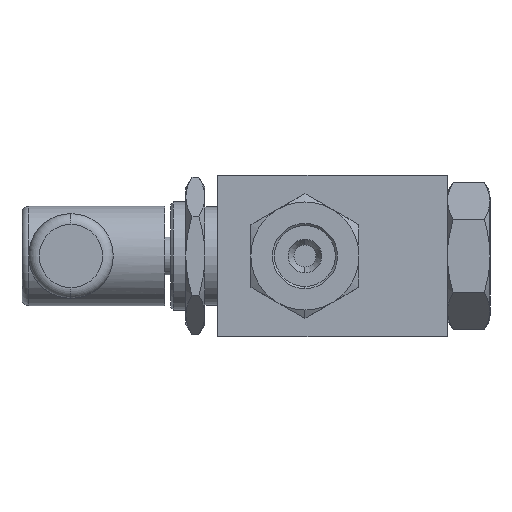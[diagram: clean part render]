
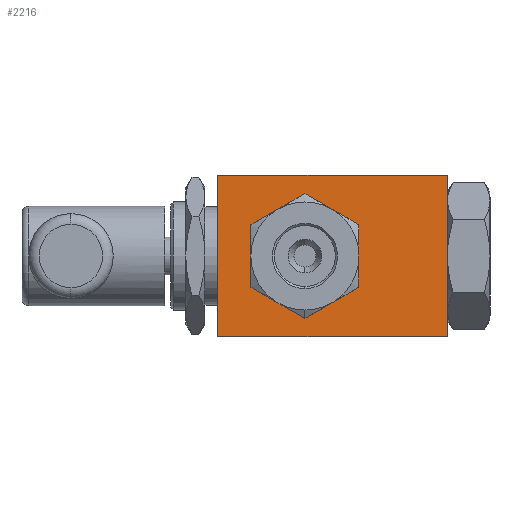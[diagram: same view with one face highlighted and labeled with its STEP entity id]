
A CAD part, left-side view. The second image highlights one B-rep face of the part: STEP entity #2216.
In plain terms, the highlighted planar face has unit normal (-1, 0, 0).
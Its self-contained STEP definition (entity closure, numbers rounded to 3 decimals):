
#25 = CARTESIAN_POINT ( 'NONE',  ( -33.25, 6.5, 0. ) ) ;
#98 = LINE ( 'NONE', #4542, #5382 ) ;
#142 = CIRCLE ( 'NONE', #3787, 11. ) ;
#367 = CIRCLE ( 'NONE', #4141, 11. ) ;
#534 = LINE ( 'NONE', #6021, #5282 ) ;
#566 = DIRECTION ( 'NONE',  ( 0., -1., 0. ) ) ;
#573 = CIRCLE ( 'NONE', #6204, 11. ) ;
#635 = DIRECTION ( 'NONE',  ( 0., 0., -1. ) ) ;
#638 = ORIENTED_EDGE ( 'NONE', *, *, #4500, .F. ) ;
#789 = DIRECTION ( 'NONE',  ( 1., 0., 0. ) ) ;
#880 = DIRECTION ( 'NONE',  ( 0., 0., -1. ) ) ;
#1128 = CARTESIAN_POINT ( 'NONE',  ( -33.25, 27., -19. ) ) ;
#1186 = CARTESIAN_POINT ( 'NONE',  ( -33.25, -27., 19. ) ) ;
#1243 = CARTESIAN_POINT ( 'NONE',  ( -33.25, 27., 19. ) ) ;
#1317 = DIRECTION ( 'NONE',  ( 1., 0., 0. ) ) ;
#1366 = FACE_BOUND ( 'NONE', #6045, .T. ) ;
#1371 = CARTESIAN_POINT ( 'NONE',  ( -33.25, 6.5, 0. ) ) ;
#1416 = CARTESIAN_POINT ( 'NONE',  ( -33.25, 17.5, 0. ) ) ;
#1507 = VERTEX_POINT ( 'NONE', #4826 ) ;
#1616 = DIRECTION ( 'NONE',  ( 1., 0., 0. ) ) ;
#1626 = EDGE_CURVE ( 'NONE', #1507, #3081, #534, .T. ) ;
#1669 = ORIENTED_EDGE ( 'NONE', *, *, #3422, .T. ) ;
#1829 = DIRECTION ( 'NONE',  ( 0., 0., -1. ) ) ;
#1926 = CIRCLE ( 'NONE', #2336, 11. ) ;
#1937 = ORIENTED_EDGE ( 'NONE', *, *, #3231, .T. ) ;
#1982 = VERTEX_POINT ( 'NONE', #4590 ) ;
#2003 = DIRECTION ( 'NONE',  ( 1., 0., 0. ) ) ;
#2012 = CIRCLE ( 'NONE', #6182, 11. ) ;
#2047 = VECTOR ( 'NONE', #3244, 1000. ) ;
#2149 = CARTESIAN_POINT ( 'NONE',  ( -33.25, -27., -19. ) ) ;
#2185 = CARTESIAN_POINT ( 'NONE',  ( -33.25, 6.5, 11. ) ) ;
#2216 = ADVANCED_FACE ( 'NONE', ( #2904, #1366 ), #4357, .F. ) ;
#2270 = CARTESIAN_POINT ( 'NONE',  ( -33.25, 12., 9.526 ) ) ;
#2286 = CARTESIAN_POINT ( 'NONE',  ( -33.25, 6.5, 0. ) ) ;
#2308 = DIRECTION ( 'NONE',  ( 1., 0., 0. ) ) ;
#2327 = CARTESIAN_POINT ( 'NONE',  ( -33.25, -4.5, 0. ) ) ;
#2336 = AXIS2_PLACEMENT_3D ( 'NONE', #6196, #3267, #3783 ) ;
#2430 = VECTOR ( 'NONE', #6241, 1000. ) ;
#2535 = EDGE_CURVE ( 'NONE', #1982, #4846, #3052, .T. ) ;
#2540 = EDGE_CURVE ( 'NONE', #4402, #5393, #142, .T. ) ;
#2638 = AXIS2_PLACEMENT_3D ( 'NONE', #4814, #2308, #1829 ) ;
#2685 = CARTESIAN_POINT ( 'NONE',  ( -33.25, -27., -19. ) ) ;
#2720 = EDGE_LOOP ( 'NONE', ( #1669, #638, #6314, #6349 ) ) ;
#2904 = FACE_OUTER_BOUND ( 'NONE', #2720, .T. ) ;
#2933 = EDGE_CURVE ( 'NONE', #6221, #3965, #2012, .T. ) ;
#2982 = VERTEX_POINT ( 'NONE', #1128 ) ;
#3052 = CIRCLE ( 'NONE', #4422, 11. ) ;
#3081 = VERTEX_POINT ( 'NONE', #1186 ) ;
#3189 = DIRECTION ( 'NONE',  ( 0., 0., -1. ) ) ;
#3231 = EDGE_CURVE ( 'NONE', #4846, #4402, #4223, .T. ) ;
#3244 = DIRECTION ( 'NONE',  ( 0., 0., -1. ) ) ;
#3266 = ORIENTED_EDGE ( 'NONE', *, *, #2933, .T. ) ;
#3267 = DIRECTION ( 'NONE',  ( 1., 0., 0. ) ) ;
#3321 = DIRECTION ( 'NONE',  ( 0., 0., -1. ) ) ;
#3350 = ORIENTED_EDGE ( 'NONE', *, *, #5386, .T. ) ;
#3422 = EDGE_CURVE ( 'NONE', #2982, #5853, #4622, .T. ) ;
#3551 = DIRECTION ( 'NONE',  ( 0., 0., -1. ) ) ;
#3690 = AXIS2_PLACEMENT_3D ( 'NONE', #4333, #4795, #3321 ) ;
#3783 = DIRECTION ( 'NONE',  ( 0., 0., -1. ) ) ;
#3787 = AXIS2_PLACEMENT_3D ( 'NONE', #1371, #1317, #880 ) ;
#3821 = ORIENTED_EDGE ( 'NONE', *, *, #6139, .T. ) ;
#3903 = CARTESIAN_POINT ( 'NONE',  ( -33.25, 1., 9.526 ) ) ;
#3965 = VERTEX_POINT ( 'NONE', #5259 ) ;
#4141 = AXIS2_PLACEMENT_3D ( 'NONE', #6025, #1616, #3551 ) ;
#4175 = DIRECTION ( 'NONE',  ( 1., 0., 0. ) ) ;
#4193 = ORIENTED_EDGE ( 'NONE', *, *, #2535, .T. ) ;
#4223 = CIRCLE ( 'NONE', #3690, 11. ) ;
#4333 = CARTESIAN_POINT ( 'NONE',  ( -33.25, 6.5, 0. ) ) ;
#4357 = PLANE ( 'NONE',  #2638 ) ;
#4402 = VERTEX_POINT ( 'NONE', #2270 ) ;
#4422 = AXIS2_PLACEMENT_3D ( 'NONE', #2286, #789, #5783 ) ;
#4500 = EDGE_CURVE ( 'NONE', #3081, #5853, #98, .T. ) ;
#4542 = CARTESIAN_POINT ( 'NONE',  ( -33.25, -27., 19. ) ) ;
#4590 = CARTESIAN_POINT ( 'NONE',  ( -33.25, 12., -9.526 ) ) ;
#4622 = LINE ( 'NONE', #2685, #2430 ) ;
#4795 = DIRECTION ( 'NONE',  ( 1., 0., 0. ) ) ;
#4814 = CARTESIAN_POINT ( 'NONE',  ( -33.25, -27., 19. ) ) ;
#4826 = CARTESIAN_POINT ( 'NONE',  ( -33.25, 27., 19. ) ) ;
#4829 = VERTEX_POINT ( 'NONE', #3903 ) ;
#4846 = VERTEX_POINT ( 'NONE', #1416 ) ;
#4961 = DIRECTION ( 'NONE',  ( 0., 0., -1. ) ) ;
#5064 = EDGE_CURVE ( 'NONE', #1507, #2982, #5748, .T. ) ;
#5259 = CARTESIAN_POINT ( 'NONE',  ( -33.25, 1., -9.526 ) ) ;
#5282 = VECTOR ( 'NONE', #566, 1000. ) ;
#5382 = VECTOR ( 'NONE', #4961, 1000. ) ;
#5386 = EDGE_CURVE ( 'NONE', #4829, #6221, #1926, .T. ) ;
#5393 = VERTEX_POINT ( 'NONE', #2185 ) ;
#5634 = CARTESIAN_POINT ( 'NONE',  ( -33.25, 6.5, 0. ) ) ;
#5748 = LINE ( 'NONE', #1243, #2047 ) ;
#5783 = DIRECTION ( 'NONE',  ( 0., 0., -1. ) ) ;
#5853 = VERTEX_POINT ( 'NONE', #2149 ) ;
#5914 = ORIENTED_EDGE ( 'NONE', *, *, #2540, .T. ) ;
#6013 = EDGE_CURVE ( 'NONE', #5393, #4829, #367, .T. ) ;
#6021 = CARTESIAN_POINT ( 'NONE',  ( -33.25, -27., 19. ) ) ;
#6025 = CARTESIAN_POINT ( 'NONE',  ( -33.25, 6.5, 0. ) ) ;
#6045 = EDGE_LOOP ( 'NONE', ( #3821, #4193, #1937, #5914, #6093, #3350, #3266 ) ) ;
#6093 = ORIENTED_EDGE ( 'NONE', *, *, #6013, .T. ) ;
#6139 = EDGE_CURVE ( 'NONE', #3965, #1982, #573, .T. ) ;
#6182 = AXIS2_PLACEMENT_3D ( 'NONE', #25, #2003, #635 ) ;
#6196 = CARTESIAN_POINT ( 'NONE',  ( -33.25, 6.5, 0. ) ) ;
#6204 = AXIS2_PLACEMENT_3D ( 'NONE', #5634, #4175, #3189 ) ;
#6221 = VERTEX_POINT ( 'NONE', #2327 ) ;
#6241 = DIRECTION ( 'NONE',  ( 0., -1., 0. ) ) ;
#6314 = ORIENTED_EDGE ( 'NONE', *, *, #1626, .F. ) ;
#6349 = ORIENTED_EDGE ( 'NONE', *, *, #5064, .T. ) ;
